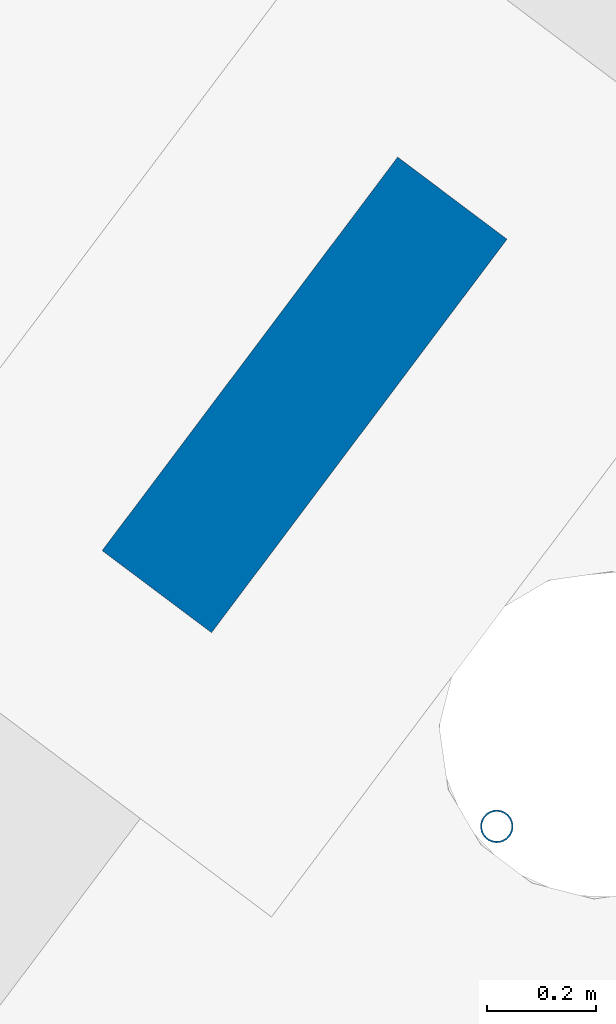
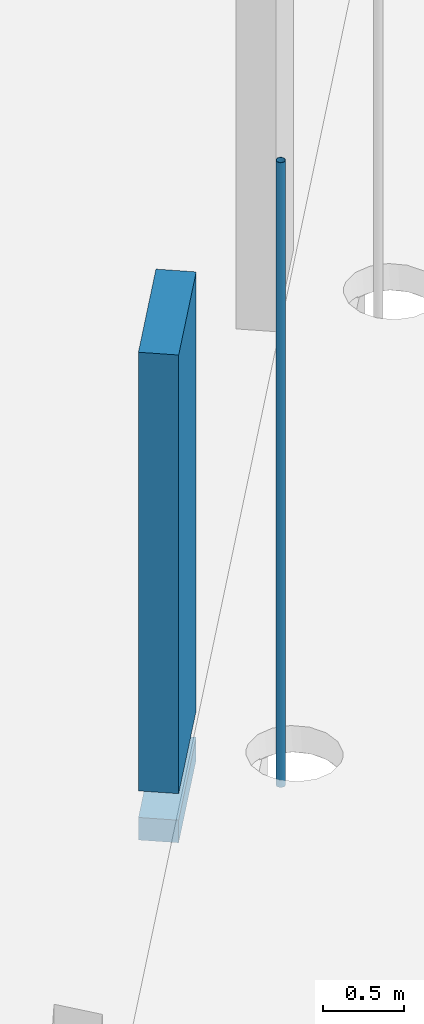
# One storey, part 2 of 24: 2 columns.
"""IFC2X3 building model written with IfcOpenShell, lengths in metres."""

from ifc_helpers import new_model, entity, si_unit, converted_unit, derived_unit, direction, frame, frame_2d, origin, origin_2d_with_axis, place, context, subcontext, project, spatial, rectangle, hollow_circle, extrude, source, transform, mapped, material, type_object, type_shapes, element, save


model = new_model("IFC2X3")

# Units and contexts
model_context = context("Model", 3, precision=1e-05, world=origin(), true_north=direction((6.123031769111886e-17, 1.0)))
body_context = subcontext(model_context, "Body", "Model", "MODEL_VIEW")
ifc_project = project(units=[si_unit("LENGTHUNIT", "METRE"), si_unit("AREAUNIT", "SQUARE_METRE"), si_unit("VOLUMEUNIT", "CUBIC_METRE"), converted_unit("PLANEANGLEUNIT", "DEGREE", entity("IfcRatioMeasure", 0.017453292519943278), si_unit("PLANEANGLEUNIT", "RADIAN"), dimensions=[0, 0, 0, 0, 0, 0, 0]), si_unit("MASSUNIT", "GRAM", prefix="KILO"), derived_unit("MASSDENSITYUNIT", [(si_unit("MASSUNIT", "GRAM", prefix="KILO"), 1), (si_unit("LENGTHUNIT", "METRE"), -3)]), derived_unit("IONCONCENTRATIONUNIT", [(si_unit("MASSUNIT", "GRAM", prefix="KILO"), 1), (si_unit("LENGTHUNIT", "METRE"), -3)]), derived_unit("MOMENTOFINERTIAUNIT", [(si_unit("LENGTHUNIT", "METRE"), 4)]), si_unit("TIMEUNIT", "SECOND"), si_unit("FREQUENCYUNIT", "HERTZ"), si_unit("THERMODYNAMICTEMPERATUREUNIT", "DEGREE_CELSIUS"), derived_unit("THERMALTRANSMITTANCEUNIT", [(si_unit("MASSUNIT", "GRAM", prefix="KILO"), 1), (si_unit("THERMODYNAMICTEMPERATUREUNIT", "KELVIN"), -1), (si_unit("TIMEUNIT", "SECOND"), -3)]), derived_unit("THERMALCONDUCTANCEUNIT", [(si_unit("MASSUNIT", "GRAM", prefix="KILO"), 1), (si_unit("THERMODYNAMICTEMPERATUREUNIT", "KELVIN"), -1), (si_unit("TIMEUNIT", "SECOND"), -3), (si_unit("LENGTHUNIT", "METRE"), 1)]), derived_unit("VOLUMETRICFLOWRATEUNIT", [(si_unit("LENGTHUNIT", "METRE"), 3), (si_unit("TIMEUNIT", "SECOND"), -1)]), derived_unit("MASSFLOWRATEUNIT", [(si_unit("MASSUNIT", "GRAM", prefix="KILO"), 1), (si_unit("TIMEUNIT", "SECOND"), -1)]), derived_unit("ROTATIONALFREQUENCYUNIT", [(si_unit("TIMEUNIT", "SECOND"), -1)]), si_unit("ELECTRICCURRENTUNIT", "AMPERE"), si_unit("ELECTRICVOLTAGEUNIT", "VOLT"), si_unit("POWERUNIT", "WATT"), si_unit("FORCEUNIT", "NEWTON", prefix="KILO"), si_unit("ILLUMINANCEUNIT", "LUX"), si_unit("LUMINOUSFLUXUNIT", "LUMEN"), si_unit("LUMINOUSINTENSITYUNIT", "CANDELA"), derived_unit("USERDEFINED", [(si_unit("MASSUNIT", "GRAM", prefix="KILO"), -1), (si_unit("LENGTHUNIT", "METRE"), -2), (si_unit("TIMEUNIT", "SECOND"), 3), (si_unit("LUMINOUSFLUXUNIT", "LUMEN"), 1)]), derived_unit("USERDEFINED", [(si_unit("MASSUNIT", "GRAM", prefix="KILO"), 1), (si_unit("TIMEUNIT", "SECOND"), -3), (si_unit("LENGTHUNIT", "METRE"), 3), (si_unit("ELECTRICCURRENTUNIT", "AMPERE"), -2)]), derived_unit("SOUNDPOWERUNIT", [(si_unit("MASSUNIT", "GRAM", prefix="KILO"), 1), (si_unit("TIMEUNIT", "SECOND"), -3), (si_unit("LENGTHUNIT", "METRE"), 2)]), derived_unit("SOUNDPRESSUREUNIT", [(si_unit("MASSUNIT", "GRAM", prefix="KILO"), 1), (si_unit("LENGTHUNIT", "METRE"), -1), (si_unit("TIMEUNIT", "SECOND"), -2)]), derived_unit("LINEARVELOCITYUNIT", [(si_unit("LENGTHUNIT", "METRE"), 1), (si_unit("TIMEUNIT", "SECOND"), -1)]), si_unit("PRESSUREUNIT", "PASCAL"), derived_unit("USERDEFINED", [(si_unit("MASSUNIT", "GRAM", prefix="KILO"), 1), (si_unit("LENGTHUNIT", "METRE"), -2), (si_unit("TIMEUNIT", "SECOND"), -2)]), derived_unit("LINEARFORCEUNIT", [(si_unit("MASSUNIT", "GRAM", prefix="KILO"), 1), (si_unit("TIMEUNIT", "SECOND"), -2)]), derived_unit("PLANARFORCEUNIT", [(si_unit("MASSUNIT", "GRAM", prefix="KILO"), 1), (si_unit("LENGTHUNIT", "METRE"), -1), (si_unit("TIMEUNIT", "SECOND"), -2)]), derived_unit("SPECIFICHEATCAPACITYUNIT", [(si_unit("THERMODYNAMICTEMPERATUREUNIT", "KELVIN"), -1), (si_unit("LENGTHUNIT", "METRE"), 2), (si_unit("TIMEUNIT", "SECOND"), -2)]), derived_unit("HEATINGVALUEUNIT", [(si_unit("LENGTHUNIT", "METRE"), 2), (si_unit("TIMEUNIT", "SECOND"), -2)]), derived_unit("VAPORPERMEABILITYUNIT", [(si_unit("LENGTHUNIT", "METRE"), -1), (si_unit("TIMEUNIT", "SECOND"), 1)]), derived_unit("DYNAMICVISCOSITYUNIT", [(si_unit("MASSUNIT", "GRAM", prefix="KILO"), 1), (si_unit("TIMEUNIT", "SECOND"), -1), (si_unit("LENGTHUNIT", "METRE"), -1)]), derived_unit("THERMALEXPANSIONCOEFFICIENTUNIT", [(si_unit("THERMODYNAMICTEMPERATUREUNIT", "KELVIN"), -1)]), derived_unit("MODULUSOFELASTICITYUNIT", [(si_unit("MASSUNIT", "GRAM", prefix="KILO"), 1), (si_unit("LENGTHUNIT", "METRE"), -1), (si_unit("TIMEUNIT", "SECOND"), -2)]), derived_unit("ISOTHERMALMOISTURECAPACITYUNIT", [(si_unit("LENGTHUNIT", "METRE"), 3), (si_unit("MASSUNIT", "GRAM", prefix="KILO"), -1)]), derived_unit("MOISTUREDIFFUSIVITYUNIT", [(si_unit("TIMEUNIT", "SECOND"), -1), (si_unit("LENGTHUNIT", "METRE"), 2)])], contexts=[model_context])

# Site, building, storey
site_placement = place(None, origin())
site = spatial("IfcSite", under=ifc_project, at=site_placement, Name="Default", CompositionType="ELEMENT")
building_placement = place(site_placement, frame((0.0, 0.0, 235.0), z_axis=(0.0, 0.0, 1.0), x_axis=(-0.7996477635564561, 0.6004693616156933, 0.0)))
building = spatial("IfcBuilding", under=site, at=building_placement, CompositionType="ELEMENT")
storey_placement = place(building_placement, origin())
storey = spatial("IfcBuildingStorey", under=building, at=storey_placement, Name="P0- Escola", CompositionType="ELEMENT", Elevation=0.0)

# Columns
ifc_material_1 = material(Name="_Formigó- T1- STR")
column_type_1 = type_object("IfcColumnType", Name="STR- P- Formigó- Rectangular- T1:25x90cm", PredefinedType="COLUMN", material=ifc_material_1)
shared_shape_1 = source(origin(), body_context, "Body", "SweptSolid", [
    extrude(rectangle(XDim=0.899999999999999, YDim=0.2499999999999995, at=origin_2d_with_axis()), frame((28.520147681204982, -24.915191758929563, -0.57), z_axis=(0.0, 0.0, 1.0), x_axis=(0.0, -1.0, 0.0)), (0.0, 0.0, 1.0), 0.16999999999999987),
    extrude(rectangle(XDim=0.899999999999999, YDim=0.2499999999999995, at=origin_2d_with_axis()), frame((28.520147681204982, -24.915191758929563, -0.2), z_axis=(0.0, 0.0, 1.0), x_axis=(0.0, -1.0, 0.0)), (0.0, 0.0, 1.0), 3.3000000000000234),
])
type_shapes(column_type_1, [shared_shape_1])
column_1_placement = place(storey_placement, origin())
element("IfcColumn", 1, at=column_1_placement, inside=storey, type_object=column_type_1, material=ifc_material_1, Name="STR- P- Formigó- Rectangular- T1:25x90cm", ObjectType="STR- P- Formigó- Rectangular- T1:25x90cm", context=body_context, shape_type="MappedRepresentation", body=[
    mapped(shared_shape_1, transform((0.0, 0.0, 0.0), scale=1.0)),
])
ifc_material_2 = material(Name="Metal - Acero - 345 MPa")
column_type_2 = type_object("IfcColumnType", Name="STR- P- Acer- CHS- Circular- T1:60.3 x 3CHS", PredefinedType="COLUMN", material=ifc_material_2)
shared_shape_2 = source(origin(), body_context, "Body", "SweptSolid", [
    extrude(hollow_circle(Radius=0.03014999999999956, WallThickness=0.0029999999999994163, at=frame_2d((-4.81877898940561e-19, 4.854464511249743e-17), x_axis=(1.0, 0.0))), frame((0.0, 0.0, -0.1)), (0.0, 0.0, 1.0), 4.700000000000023),
])
type_shapes(column_type_2, [shared_shape_2])
column_2_placement = place(storey_placement, frame((27.765147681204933, -24.49519175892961, 0.0)))
element("IfcColumn", 2, at=column_2_placement, inside=storey, type_object=column_type_2, material=ifc_material_2, Name="STR- P- Acer- CHS- Circular- T1:60.3 x 3CHS", ObjectType="STR- P- Acer- CHS- Circular- T1:60.3 x 3CHS", context=body_context, shape_type="MappedRepresentation", body=[
    mapped(shared_shape_2, transform((0.0, 0.0, 0.0), scale=1.0)),
])

save(model, "model.ifc")
